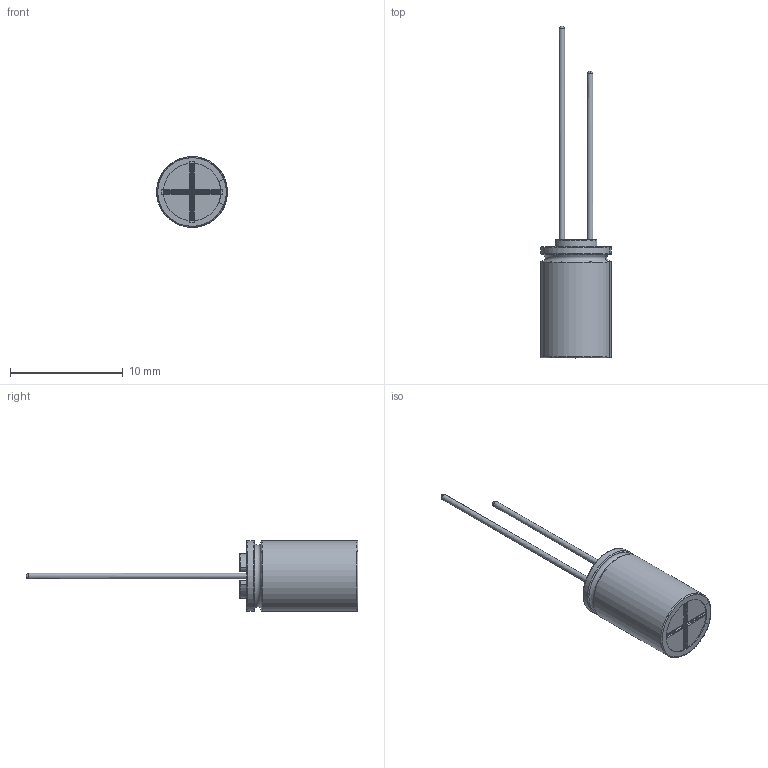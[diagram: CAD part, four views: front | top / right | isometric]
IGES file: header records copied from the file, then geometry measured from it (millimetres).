
Start section: JAMA-IS VERSION  1.0
Bounding box: 6.29 x 29.5 x 6.3 mm (x, y, z)
Surface area: 762 mm2 (no closed solid volume)
Topology: 0 solids, 0 shells, 120 faces, 1287 edges, 1276 vertices
Faces by surface type: bspline 120
